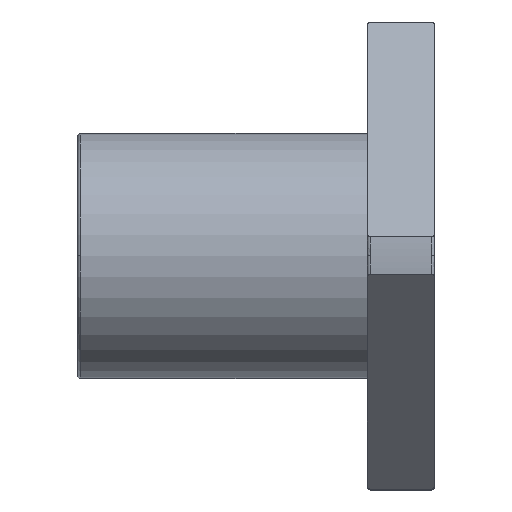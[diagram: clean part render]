
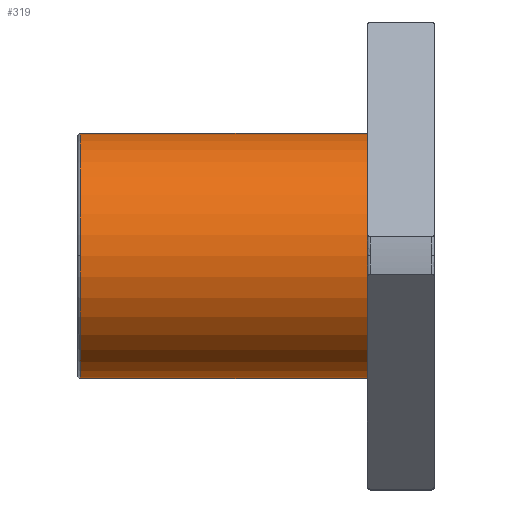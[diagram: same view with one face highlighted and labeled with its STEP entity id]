
A CAD part, top view. The second image highlights one B-rep face of the part: STEP entity #319.
In plain terms, the highlighted cylindrical face has radius 11 mm (diameter 22 mm), a partial arc.
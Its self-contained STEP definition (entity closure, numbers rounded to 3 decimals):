
#319 = ADVANCED_FACE('',(#320),#334,.T.);
#320 = FACE_BOUND('',#321,.T.);
#321 = EDGE_LOOP('',(#322,#357,#386,#415,#438));
#322 = ORIENTED_EDGE('',*,*,#323,.F.);
#323 = EDGE_CURVE('',#324,#326,#328,.T.);
#324 = VERTEX_POINT('',#325);
#325 = CARTESIAN_POINT('',(-31.75,11.,0.));
#326 = VERTEX_POINT('',#327);
#327 = CARTESIAN_POINT('',(-6.,11.,0.));
#328 = SURFACE_CURVE('',#329,(#333,#345),.PCURVE_S1.);
#329 = LINE('',#330,#331);
#330 = CARTESIAN_POINT('',(-18.875,11.,0.));
#331 = VECTOR('',#332,1.);
#332 = DIRECTION('',(1.,0.,0.));
#333 = PCURVE('',#334,#339);
#334 = CYLINDRICAL_SURFACE('',#335,11.);
#335 = AXIS2_PLACEMENT_3D('',#336,#337,#338);
#336 = CARTESIAN_POINT('',(-18.875,0.,0.));
#337 = DIRECTION('',(1.,0.,0.));
#338 = DIRECTION('',(-0.,1.,0.));
#339 = DEFINITIONAL_REPRESENTATION('',(#340),#344);
#340 = LINE('',#341,#342);
#341 = CARTESIAN_POINT('',(0.,0.));
#342 = VECTOR('',#343,1.);
#343 = DIRECTION('',(0.,1.));
#344 = ( GEOMETRIC_REPRESENTATION_CONTEXT(2) 
PARAMETRIC_REPRESENTATION_CONTEXT() REPRESENTATION_CONTEXT('2D SPACE',''
  ) );
#345 = PCURVE('',#346,#351);
#346 = CYLINDRICAL_SURFACE('',#347,11.);
#347 = AXIS2_PLACEMENT_3D('',#348,#349,#350);
#348 = CARTESIAN_POINT('',(-18.875,0.,0.));
#349 = DIRECTION('',(1.,0.,0.));
#350 = DIRECTION('',(-0.,1.,0.));
#351 = DEFINITIONAL_REPRESENTATION('',(#352),#356);
#352 = LINE('',#353,#354);
#353 = CARTESIAN_POINT('',(6.283,0.));
#354 = VECTOR('',#355,1.);
#355 = DIRECTION('',(0.,1.));
#356 = ( GEOMETRIC_REPRESENTATION_CONTEXT(2) 
PARAMETRIC_REPRESENTATION_CONTEXT() REPRESENTATION_CONTEXT('2D SPACE',''
  ) );
#357 = ORIENTED_EDGE('',*,*,#358,.T.);
#358 = EDGE_CURVE('',#324,#359,#361,.T.);
#359 = VERTEX_POINT('',#360);
#360 = CARTESIAN_POINT('',(-31.75,0.,11.));
#361 = SURFACE_CURVE('',#362,(#367,#374),.PCURVE_S1.);
#362 = CIRCLE('',#363,11.);
#363 = AXIS2_PLACEMENT_3D('',#364,#365,#366);
#364 = CARTESIAN_POINT('',(-31.75,0.,0.));
#365 = DIRECTION('',(1.,0.,0.));
#366 = DIRECTION('',(-0.,1.,0.));
#367 = PCURVE('',#334,#368);
#368 = DEFINITIONAL_REPRESENTATION('',(#369),#373);
#369 = LINE('',#370,#371);
#370 = CARTESIAN_POINT('',(0.,-12.875));
#371 = VECTOR('',#372,1.);
#372 = DIRECTION('',(1.,0.));
#373 = ( GEOMETRIC_REPRESENTATION_CONTEXT(2) 
PARAMETRIC_REPRESENTATION_CONTEXT() REPRESENTATION_CONTEXT('2D SPACE',''
  ) );
#374 = PCURVE('',#375,#380);
#375 = TOROIDAL_SURFACE('',#376,10.75,0.25);
#376 = AXIS2_PLACEMENT_3D('',#377,#378,#379);
#377 = CARTESIAN_POINT('',(-31.75,0.,0.));
#378 = DIRECTION('',(1.,0.,0.));
#379 = DIRECTION('',(0.,0.,-1.));
#380 = DEFINITIONAL_REPRESENTATION('',(#381),#385);
#381 = LINE('',#382,#383);
#382 = CARTESIAN_POINT('',(1.571,6.283));
#383 = VECTOR('',#384,1.);
#384 = DIRECTION('',(1.,0.));
#385 = ( GEOMETRIC_REPRESENTATION_CONTEXT(2) 
PARAMETRIC_REPRESENTATION_CONTEXT() REPRESENTATION_CONTEXT('2D SPACE',''
  ) );
#386 = ORIENTED_EDGE('',*,*,#387,.T.);
#387 = EDGE_CURVE('',#359,#388,#390,.T.);
#388 = VERTEX_POINT('',#389);
#389 = CARTESIAN_POINT('',(-31.75,-11.,0.));
#390 = SURFACE_CURVE('',#391,(#396,#403),.PCURVE_S1.);
#391 = CIRCLE('',#392,11.);
#392 = AXIS2_PLACEMENT_3D('',#393,#394,#395);
#393 = CARTESIAN_POINT('',(-31.75,0.,0.));
#394 = DIRECTION('',(1.,0.,0.));
#395 = DIRECTION('',(-0.,1.,0.));
#396 = PCURVE('',#334,#397);
#397 = DEFINITIONAL_REPRESENTATION('',(#398),#402);
#398 = LINE('',#399,#400);
#399 = CARTESIAN_POINT('',(0.,-12.875));
#400 = VECTOR('',#401,1.);
#401 = DIRECTION('',(1.,0.));
#402 = ( GEOMETRIC_REPRESENTATION_CONTEXT(2) 
PARAMETRIC_REPRESENTATION_CONTEXT() REPRESENTATION_CONTEXT('2D SPACE',''
  ) );
#403 = PCURVE('',#404,#409);
#404 = TOROIDAL_SURFACE('',#405,10.75,0.25);
#405 = AXIS2_PLACEMENT_3D('',#406,#407,#408);
#406 = CARTESIAN_POINT('',(-31.75,0.,0.));
#407 = DIRECTION('',(1.,0.,0.));
#408 = DIRECTION('',(0.,0.,-1.));
#409 = DEFINITIONAL_REPRESENTATION('',(#410),#414);
#410 = LINE('',#411,#412);
#411 = CARTESIAN_POINT('',(1.571,6.283));
#412 = VECTOR('',#413,1.);
#413 = DIRECTION('',(1.,0.));
#414 = ( GEOMETRIC_REPRESENTATION_CONTEXT(2) 
PARAMETRIC_REPRESENTATION_CONTEXT() REPRESENTATION_CONTEXT('2D SPACE',''
  ) );
#415 = ORIENTED_EDGE('',*,*,#416,.F.);
#416 = EDGE_CURVE('',#417,#388,#419,.T.);
#417 = VERTEX_POINT('',#418);
#418 = CARTESIAN_POINT('',(-6.,-11.,0.));
#419 = SURFACE_CURVE('',#420,(#424,#431),.PCURVE_S1.);
#420 = LINE('',#421,#422);
#421 = CARTESIAN_POINT('',(-18.875,-11.,0.));
#422 = VECTOR('',#423,1.);
#423 = DIRECTION('',(-1.,-0.,-0.));
#424 = PCURVE('',#334,#425);
#425 = DEFINITIONAL_REPRESENTATION('',(#426),#430);
#426 = LINE('',#427,#428);
#427 = CARTESIAN_POINT('',(3.142,0.));
#428 = VECTOR('',#429,1.);
#429 = DIRECTION('',(0.,-1.));
#430 = ( GEOMETRIC_REPRESENTATION_CONTEXT(2) 
PARAMETRIC_REPRESENTATION_CONTEXT() REPRESENTATION_CONTEXT('2D SPACE',''
  ) );
#431 = PCURVE('',#346,#432);
#432 = DEFINITIONAL_REPRESENTATION('',(#433),#437);
#433 = LINE('',#434,#435);
#434 = CARTESIAN_POINT('',(3.142,0.));
#435 = VECTOR('',#436,1.);
#436 = DIRECTION('',(0.,-1.));
#437 = ( GEOMETRIC_REPRESENTATION_CONTEXT(2) 
PARAMETRIC_REPRESENTATION_CONTEXT() REPRESENTATION_CONTEXT('2D SPACE',''
  ) );
#438 = ORIENTED_EDGE('',*,*,#439,.F.);
#439 = EDGE_CURVE('',#326,#417,#440,.T.);
#440 = SURFACE_CURVE('',#441,(#446,#453),.PCURVE_S1.);
#441 = CIRCLE('',#442,11.);
#442 = AXIS2_PLACEMENT_3D('',#443,#444,#445);
#443 = CARTESIAN_POINT('',(-6.,0.,0.));
#444 = DIRECTION('',(1.,0.,0.));
#445 = DIRECTION('',(-0.,1.,0.));
#446 = PCURVE('',#334,#447);
#447 = DEFINITIONAL_REPRESENTATION('',(#448),#452);
#448 = LINE('',#449,#450);
#449 = CARTESIAN_POINT('',(0.,12.875));
#450 = VECTOR('',#451,1.);
#451 = DIRECTION('',(1.,0.));
#452 = ( GEOMETRIC_REPRESENTATION_CONTEXT(2) 
PARAMETRIC_REPRESENTATION_CONTEXT() REPRESENTATION_CONTEXT('2D SPACE',''
  ) );
#453 = PCURVE('',#454,#459);
#454 = PLANE('',#455);
#455 = AXIS2_PLACEMENT_3D('',#456,#457,#458);
#456 = CARTESIAN_POINT('',(-6.,15.88,0.));
#457 = DIRECTION('',(-1.,0.,0.));
#458 = DIRECTION('',(0.,-1.,0.));
#459 = DEFINITIONAL_REPRESENTATION('',(#460),#468);
#460 = ( BOUNDED_CURVE() B_SPLINE_CURVE(2,(#461,#462,#463,#464,#465,#466
,#467),.UNSPECIFIED.,.T.,.F.) B_SPLINE_CURVE_WITH_KNOTS((1,2,2,2,2,1),(
    -2.094,0.,2.094,4.189,6.283,
8.378),.UNSPECIFIED.) CURVE() GEOMETRIC_REPRESENTATION_ITEM() 
RATIONAL_B_SPLINE_CURVE((1.,0.5,1.,0.5,1.,0.5,1.)) REPRESENTATION_ITEM(
  '') );
#461 = CARTESIAN_POINT('',(4.88,0.));
#462 = CARTESIAN_POINT('',(4.88,19.053));
#463 = CARTESIAN_POINT('',(21.38,9.526));
#464 = CARTESIAN_POINT('',(37.88,0.));
#465 = CARTESIAN_POINT('',(21.38,-9.526));
#466 = CARTESIAN_POINT('',(4.88,-19.053));
#467 = CARTESIAN_POINT('',(4.88,0.));
#468 = ( GEOMETRIC_REPRESENTATION_CONTEXT(2) 
PARAMETRIC_REPRESENTATION_CONTEXT() REPRESENTATION_CONTEXT('2D SPACE',''
  ) );
